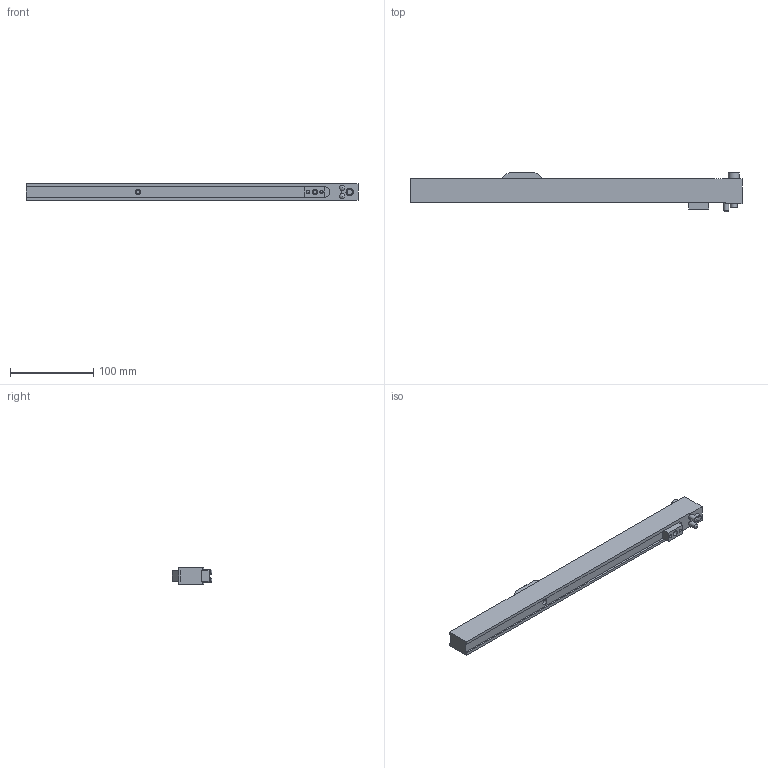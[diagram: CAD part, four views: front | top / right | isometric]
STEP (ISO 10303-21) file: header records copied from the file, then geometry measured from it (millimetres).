
FILE_DESCRIPTION(/* description */ ('STEP AP214'),/* implementation_level */ '2;1');
FILE_NAME(/* name */ 'KU22400',/* time_stamp */ '2024-12-19T07:57:47+01:00',/* author */ ('License CC BY-ND 4.0'),/* organization */ ('CADENAS'),/* preprocessor_version */ 'ST-DEVELOPER v19.3',/* originating_system */ 'PARTsolutions',/* authorisation */ ' ');
FILE_SCHEMA (('AUTOMOTIVE_DESIGN {1 0 10303 214 3 1 1}'));
Length unit declared in the file: millimetre
Products named in the file (10): KU22400; KU2240010; KU2240011; KU2240012; KU2240013; KU2240014; KU2240015; KU2240016; KU224008; KU224009
Assembly tree (10 placements, depth 2):
  KU22400
    KU2240010
    KU2240011
    KU2240012
    KU2240013
    KU2240014
    KU2240015
    KU2240016
    KU224008  x2
    KU224009
Bounding box: 400 x 48 x 20 mm (x, y, z)
Volume: 221719.4 mm3; surface area: 55397.8 mm2
Topology: 10 solids, 10 shells, 100 faces, 250 edges, 165 vertices
Faces by surface type: plane 61, cylinder 24, sphere 8, cone 7
Full cylindrical faces by diameter (mm): 4 x6, 6 x6, 6.6 x4, 8 x1, 9 x1, 10 x1, 11 x2, 13 x1
Entity records: 2849 total; most frequent: DIRECTION 458, CARTESIAN_POINT 444, ORIENTED_EDGE 378, EDGE_CURVE 189, AXIS2_PLACEMENT_3D 163, EDGE_LOOP 150, FACE_BOUND 150, VERTEX_POINT 141
